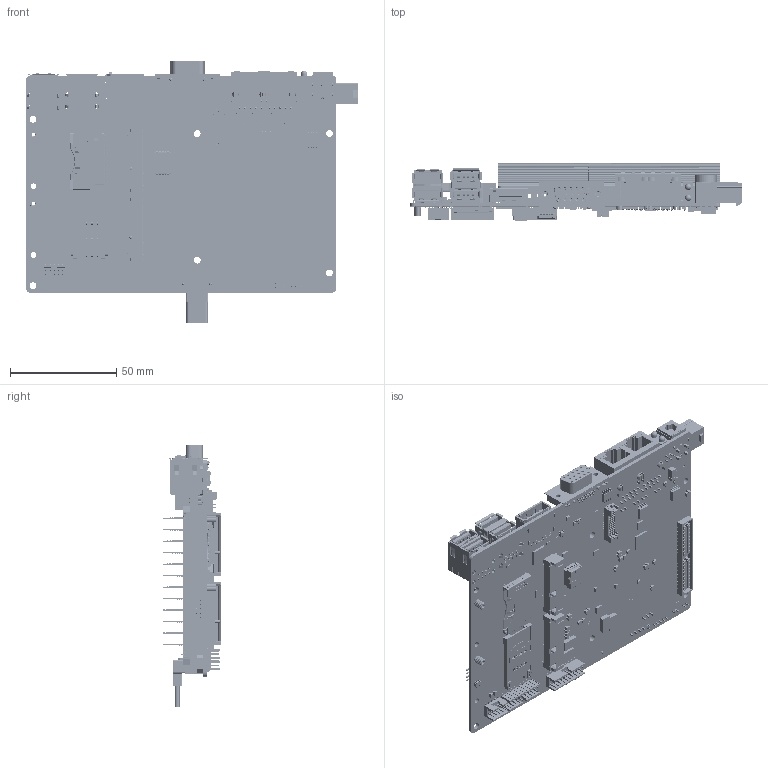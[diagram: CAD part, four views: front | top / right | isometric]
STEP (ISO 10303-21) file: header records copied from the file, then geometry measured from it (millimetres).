
FILE_DESCRIPTION (( 'STEP AP203' ), '1' );
FILE_NAME ('MIO-5251³æªO+¼Ð·ÇHS.STEP', '2015-03-20T02:07:00', ( 'ITD.MIS' ), ( '' ), 'SwSTEP 2.0', 'SolidWorks 2013', '' );
FILE_SCHEMA (( 'CONFIG_CONTROL_DESIGN' ));
Products named in the file (1): MIO-5251單板+標準HS
Bounding box: 156.14 x 27.41 x 123.35 mm (x, y, z)
Volume: 113111.3 mm3; surface area: 136168 mm2
Topology: 367 solids, 381 shells, 17180 faces, 46588 edges, 30779 vertices
Faces by surface type: plane 13082, cylinder 3289, bspline 647, cone 107, torus 49, sphere 6
Entity records: 561052 total; most frequent: CARTESIAN_POINT 132438, ORIENTED_EDGE 93134, DIRECTION 80562, EDGE_CURVE 46567, VECTOR 37558, LINE 37558, VERTEX_POINT 30775, AXIS2_PLACEMENT_3D 21502
